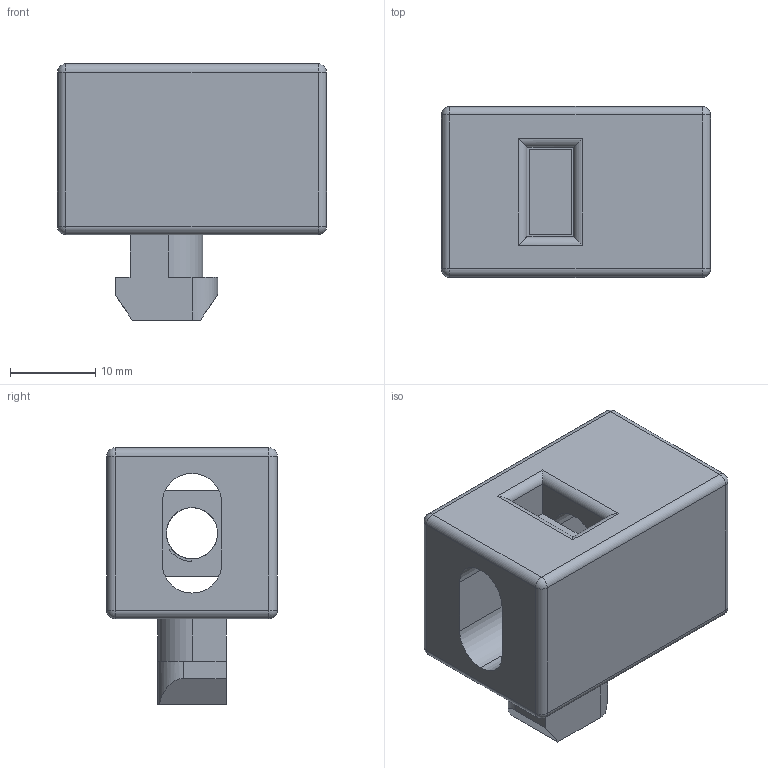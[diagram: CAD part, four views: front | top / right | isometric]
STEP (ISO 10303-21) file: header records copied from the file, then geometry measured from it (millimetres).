
FILE_DESCRIPTION (( 'STEP AP214' ), '1' );
FILE_NAME ('1.3045 Paneelikiinnike 45 C kirkas.STEP', '2025-09-09T11:40:28', ( '' ), ( '' ), 'SwSTEP 2.0', 'SolidWorks 2025', '' );
FILE_SCHEMA (( 'AUTOMOTIVE_DESIGN' ));
Length unit declared in the file: millimetre
Products named in the file (1): 1.3045 Paneelikiinnike 45 C kirkas
Bounding box: 31.5 x 20 x 30 mm (x, y, z)
Volume: 10256.5 mm3; surface area: 5240.6 mm2
Topology: 2 solids, 2 shells, 89 faces, 225 edges, 134 vertices
Faces by surface type: cylinder 42, plane 33, sphere 8, bspline 6
Entity records: 8660 total; most frequent: CARTESIAN_POINT 5616, ORIENTED_EDGE 434, DIRECTION 397, EDGE_CURVE 217, AXIS2_PLACEMENT_3D 137, VERTEX_POINT 134, VECTOR 123, LINE 123
